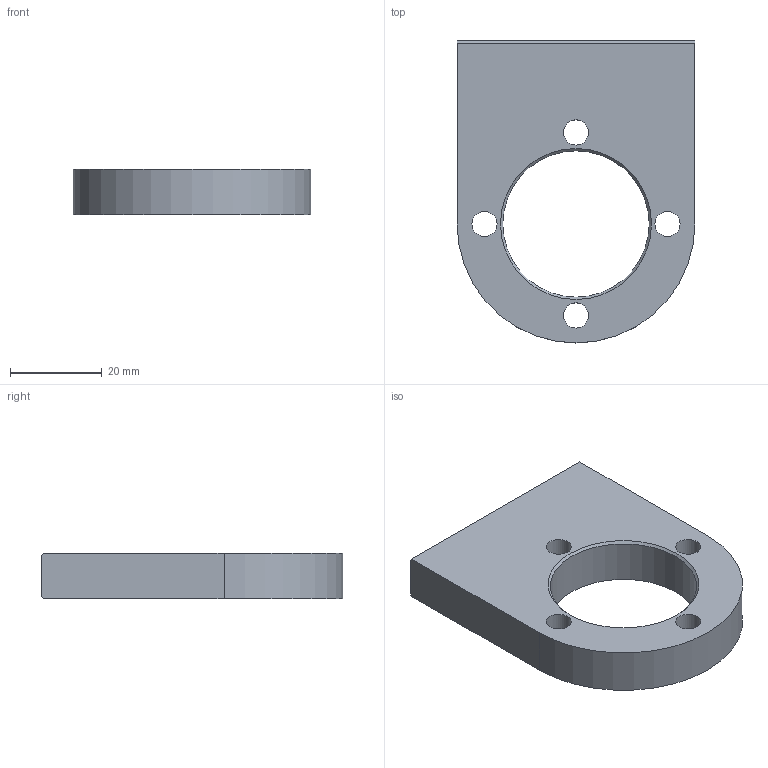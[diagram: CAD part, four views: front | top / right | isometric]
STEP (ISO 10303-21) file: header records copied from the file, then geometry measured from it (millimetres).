
FILE_DESCRIPTION(('STEP AP203'), '1');
FILE_NAME('ﾒﾏﾏﾔ1801.01.08.01.003 - ﾊ煇鳫 葢鞳瑣褄 ', '', ('UNSPECIFIED'), ('UNSPECIFIED'), 'C3D Converter', 'C3D Toolkit', '');
FILE_SCHEMA(('CONFIG_CONTROL_DESIGN'));
Length unit declared in the file: millimetre
Products named in the file (1): ТППФ1801.01.08.01.003
Bounding box: 52 x 66 x 10 mm (x, y, z)
Volume: 22051.7 mm3; surface area: 8561.9 mm2
Topology: 1 solids, 1 shells, 20 faces, 49 edges, 31 vertices
Faces by surface type: cylinder 8, plane 7, cone 5
Full cylindrical faces by diameter (mm): 4.134 x2, 5.5 x4, 32 x1
Entity records: 734 total; most frequent: DIRECTION 96, CARTESIAN_POINT 85, ORIENTED_EDGE 70, EDGE_LOOP 42, AXIS2_PLACEMENT_3D 40, EDGE_CURVE 35, VERTEX_POINT 29, FACE_OUTER_BOUND 22
